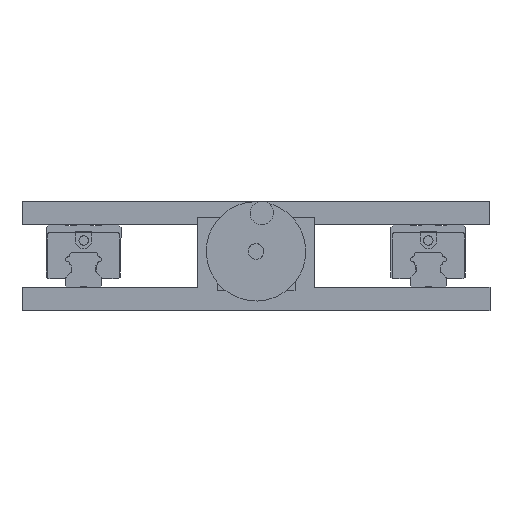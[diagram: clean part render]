
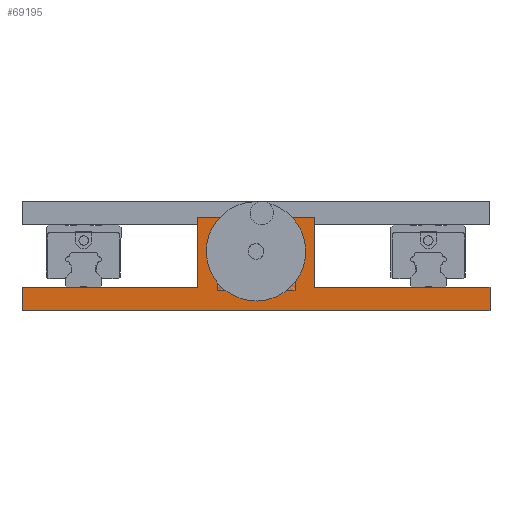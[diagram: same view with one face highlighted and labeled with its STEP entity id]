
A CAD part, front view. The second image highlights one B-rep face of the part: STEP entity #69195.
In plain terms, the highlighted planar face has unit normal (0, -1, 0).
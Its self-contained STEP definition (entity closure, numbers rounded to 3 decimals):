
#58 = EDGE_CURVE ( 'NONE', #48723, #63846, #40177, .T. ) ;
#1296 = DIRECTION ( 'NONE',  ( 0., 0., -1. ) ) ;
#2085 = DIRECTION ( 'NONE',  ( 0., 0., 1. ) ) ;
#5439 = DIRECTION ( 'NONE',  ( 0., 0., -1. ) ) ;
#5648 = EDGE_LOOP ( 'NONE', ( #73105, #52419, #32940, #28256, #52639, #66206, #44044, #74253 ) ) ;
#6922 = FACE_OUTER_BOUND ( 'NONE', #5648, .T. ) ;
#7335 = VECTOR ( 'NONE', #46736, 1000. ) ;
#7977 = VERTEX_POINT ( 'NONE', #49370 ) ;
#11620 = VERTEX_POINT ( 'NONE', #77699 ) ;
#12206 = CARTESIAN_POINT ( 'NONE',  ( 0., -466.5, 43. ) ) ;
#13327 = CARTESIAN_POINT ( 'NONE',  ( 0., -466.5, 38. ) ) ;
#13555 = DIRECTION ( 'NONE',  ( 0., 0., -1. ) ) ;
#15528 = CARTESIAN_POINT ( 'NONE',  ( 0., -466.5, 38. ) ) ;
#16083 = VERTEX_POINT ( 'NONE', #30795 ) ;
#16198 = DIRECTION ( 'NONE',  ( 1., 0., 0. ) ) ;
#16682 = EDGE_CURVE ( 'NONE', #63846, #48723, #17787, .T. ) ;
#16820 = CARTESIAN_POINT ( 'NONE',  ( -37.5, -466.5, 60. ) ) ;
#17392 = CARTESIAN_POINT ( 'NONE',  ( 37.5, -466.5, 60. ) ) ;
#17787 = CIRCLE ( 'NONE', #24189, 5. ) ;
#18841 = EDGE_CURVE ( 'NONE', #7977, #11620, #61591, .T. ) ;
#20904 = LINE ( 'NONE', #27932, #7335 ) ;
#20941 = EDGE_CURVE ( 'NONE', #21246, #16083, #45297, .T. ) ;
#21246 = VERTEX_POINT ( 'NONE', #16820 ) ;
#21730 = CARTESIAN_POINT ( 'NONE',  ( -150., -466.5, 0. ) ) ;
#22738 = CARTESIAN_POINT ( 'NONE',  ( -150., -466.5, 15. ) ) ;
#24189 = AXIS2_PLACEMENT_3D ( 'NONE', #13327, #74118, #68951 ) ;
#24201 = ORIENTED_EDGE ( 'NONE', *, *, #16682, .F. ) ;
#26481 = VERTEX_POINT ( 'NONE', #31968 ) ;
#26918 = DIRECTION ( 'NONE',  ( 0., 0., 1. ) ) ;
#26974 = PLANE ( 'NONE',  #39990 ) ;
#27067 = CARTESIAN_POINT ( 'NONE',  ( -150., -466.5, 0. ) ) ;
#27894 = DIRECTION ( 'NONE',  ( 1., 0., 0. ) ) ;
#27932 = CARTESIAN_POINT ( 'NONE',  ( -37.5, -466.5, 60. ) ) ;
#28256 = ORIENTED_EDGE ( 'NONE', *, *, #43276, .F. ) ;
#29257 = LINE ( 'NONE', #41578, #65881 ) ;
#29267 = EDGE_CURVE ( 'NONE', #21246, #48877, #20904, .T. ) ;
#30795 = CARTESIAN_POINT ( 'NONE',  ( -37.5, -466.5, 15. ) ) ;
#31193 = VERTEX_POINT ( 'NONE', #53302 ) ;
#31465 = CARTESIAN_POINT ( 'NONE',  ( -37.5, -466.5, 60. ) ) ;
#31968 = CARTESIAN_POINT ( 'NONE',  ( -150., -466.5, 15. ) ) ;
#32584 = VECTOR ( 'NONE', #27894, 1000. ) ;
#32940 = ORIENTED_EDGE ( 'NONE', *, *, #18841, .F. ) ;
#33498 = EDGE_CURVE ( 'NONE', #43562, #31193, #66326, .T. ) ;
#36731 = EDGE_CURVE ( 'NONE', #26481, #16083, #29257, .T. ) ;
#37515 = CARTESIAN_POINT ( 'NONE',  ( -150., -466.5, 15. ) ) ;
#38837 = VECTOR ( 'NONE', #52862, 1000. ) ;
#39119 = CARTESIAN_POINT ( 'NONE',  ( 150., -466.5, 15. ) ) ;
#39126 = DIRECTION ( 'NONE',  ( 0., 1., 0. ) ) ;
#39990 = AXIS2_PLACEMENT_3D ( 'NONE', #76102, #39126, #2085 ) ;
#40177 = CIRCLE ( 'NONE', #79734, 5. ) ;
#41578 = CARTESIAN_POINT ( 'NONE',  ( -150., -466.5, 15. ) ) ;
#43276 = EDGE_CURVE ( 'NONE', #48877, #7977, #73436, .T. ) ;
#43562 = VERTEX_POINT ( 'NONE', #27067 ) ;
#44044 = ORIENTED_EDGE ( 'NONE', *, *, #36731, .F. ) ;
#45280 = EDGE_CURVE ( 'NONE', #26481, #43562, #46482, .T. ) ;
#45297 = LINE ( 'NONE', #31465, #56899 ) ;
#46482 = LINE ( 'NONE', #22738, #38837 ) ;
#46736 = DIRECTION ( 'NONE',  ( 1., 0., 0. ) ) ;
#48618 = LINE ( 'NONE', #39119, #67049 ) ;
#48723 = VERTEX_POINT ( 'NONE', #12206 ) ;
#48877 = VERTEX_POINT ( 'NONE', #75412 ) ;
#49370 = CARTESIAN_POINT ( 'NONE',  ( 37.5, -466.5, 15. ) ) ;
#52419 = ORIENTED_EDGE ( 'NONE', *, *, #72232, .F. ) ;
#52639 = ORIENTED_EDGE ( 'NONE', *, *, #29267, .F. ) ;
#52862 = DIRECTION ( 'NONE',  ( 0., 0., -1. ) ) ;
#53302 = CARTESIAN_POINT ( 'NONE',  ( 150., -466.5, 0. ) ) ;
#56899 = VECTOR ( 'NONE', #13555, 1000. ) ;
#60455 = EDGE_LOOP ( 'NONE', ( #78484, #24201 ) ) ;
#61591 = LINE ( 'NONE', #37515, #74129 ) ;
#63846 = VERTEX_POINT ( 'NONE', #66257 ) ;
#63986 = FACE_BOUND ( 'NONE', #60455, .T. ) ;
#65881 = VECTOR ( 'NONE', #16198, 1000. ) ;
#66206 = ORIENTED_EDGE ( 'NONE', *, *, #20941, .T. ) ;
#66257 = CARTESIAN_POINT ( 'NONE',  ( 0., -466.5, 33. ) ) ;
#66326 = LINE ( 'NONE', #21730, #32584 ) ;
#67049 = VECTOR ( 'NONE', #1296, 1000. ) ;
#68951 = DIRECTION ( 'NONE',  ( 0., 0., 1. ) ) ;
#69195 = ADVANCED_FACE ( 'NONE', ( #63986, #6922 ), #26974, .F. ) ;
#72232 = EDGE_CURVE ( 'NONE', #11620, #31193, #48618, .T. ) ;
#73105 = ORIENTED_EDGE ( 'NONE', *, *, #33498, .T. ) ;
#73436 = LINE ( 'NONE', #17392, #75392 ) ;
#73628 = DIRECTION ( 'NONE',  ( 1., 0., 0. ) ) ;
#74118 = DIRECTION ( 'NONE',  ( 0., -1., 0. ) ) ;
#74129 = VECTOR ( 'NONE', #73628, 1000. ) ;
#74253 = ORIENTED_EDGE ( 'NONE', *, *, #45280, .T. ) ;
#75392 = VECTOR ( 'NONE', #5439, 1000. ) ;
#75412 = CARTESIAN_POINT ( 'NONE',  ( 37.5, -466.5, 60. ) ) ;
#76102 = CARTESIAN_POINT ( 'NONE',  ( -150., -466.5, 15. ) ) ;
#77377 = DIRECTION ( 'NONE',  ( 0., -1., 0. ) ) ;
#77699 = CARTESIAN_POINT ( 'NONE',  ( 150., -466.5, 15. ) ) ;
#78484 = ORIENTED_EDGE ( 'NONE', *, *, #58, .F. ) ;
#79734 = AXIS2_PLACEMENT_3D ( 'NONE', #15528, #77377, #26918 ) ;
